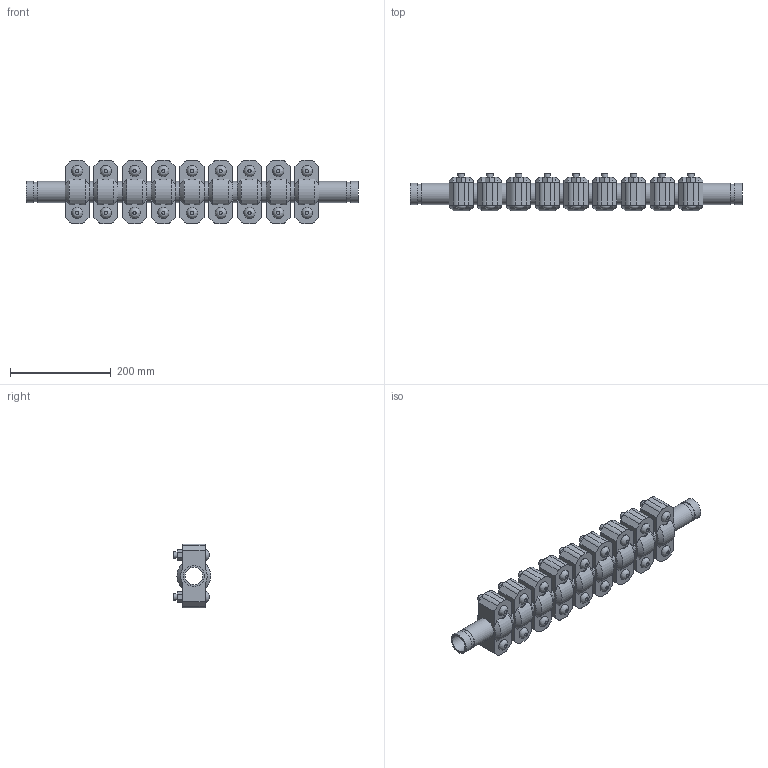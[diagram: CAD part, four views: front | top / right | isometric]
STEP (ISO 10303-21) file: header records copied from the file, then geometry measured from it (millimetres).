
FILE_DESCRIPTION(/* description */ ('VIC EXPANSION JOINT 9 COUPLINGS COMPRESSED STYLE 155 (OGS)','CAx-IF Rec.Pracs.---Representation and Presentation of Product Manufacturing Information (PMI)---4.0---2014-10-13'),/* implementation_level */ '2;1');
FILE_NAME(/* name */ 'C:\Users\kkamble\AppData\Roaming\Autodesk\ApplicationPlugins\Victaulic.Temp\A901\Victaulic_IPS_Expansion Joint_Compressed_9 Couplings_Style 155 (OGS)_1.25 (32).stp',/* time_stamp */ '2021-06-27T00:37:58+02:00',/* author */ ('kkamble'),/* organization */ ('Victaulic'),/* preprocessor_version */ 'ST-DEVELOPER v17.2',/* originating_system */ 'Autodesk Inventor 2019',/* authorisation */ '');
FILE_SCHEMA (('AP242_MANAGED_MODEL_BASED_3D_ENGINEERING_MIM_LF { 1 0 10303 442 1 1 4 }'));
Length unit declared in the file: inch
Products named in the file (4): 155-01.25; Nipple-01.25; Nipple-01.25_1; 077-01.25
Assembly tree (19 placements, depth 2):
  155-01.25
    Nipple-01.25  x2
    Nipple-01.25_1  x8
    077-01.25  x9
Bounding box: 660.4 x 74.93 x 127 mm (x, y, z)
Volume: 2325197 mm3; surface area: 544151.2 mm2
Topology: 19 solids, 37 shells, 633 faces, 1551 edges, 1086 vertices
Faces by surface type: plane 366, cylinder 213, cone 36, bspline 18
Full cylindrical faces by diameter (mm): 12.7 x36, 14.605 x18, 35.052 x10, 38.989 x20, 42.164 x39
Entity records: 2939 total; most frequent: CARTESIAN_POINT 549, DIRECTION 483, ORIENTED_EDGE 398, EDGE_CURVE 199, AXIS2_PLACEMENT_3D 194, VERTEX_POINT 142, EDGE_LOOP 105, LINE 95
